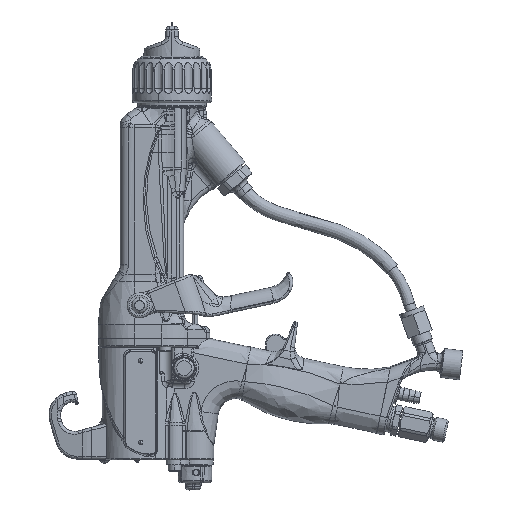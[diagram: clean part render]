
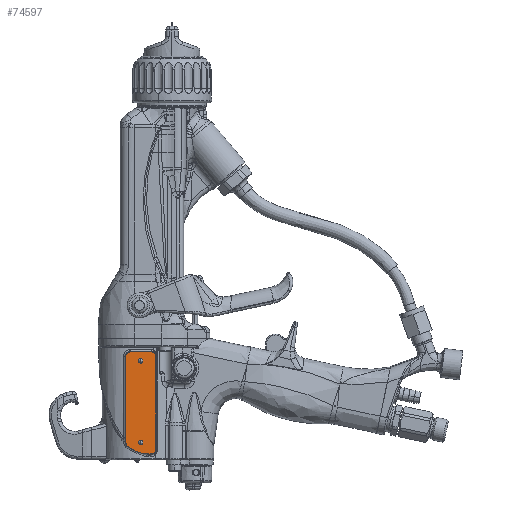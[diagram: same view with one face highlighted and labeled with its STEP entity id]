
A CAD part, left-side view. The second image highlights one B-rep face of the part: STEP entity #74597.
In plain terms, the highlighted planar face has unit normal (-1, -0.001, 0).
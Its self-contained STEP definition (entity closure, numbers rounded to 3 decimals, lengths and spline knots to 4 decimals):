
#66476=CARTESIAN_POINT('',(-0.7552,0.4544,-6.265));
#66477=DIRECTION('',(-1.,-0.001,0.));
#66478=DIRECTION('',(0.001,-1.,0.));
#66479=AXIS2_PLACEMENT_3D('',#66476,#66477,#66478);
#66481=DIRECTION('',(0.,0.,1.));
#66482=VECTOR('',#66481,2.062);
#66483=CARTESIAN_POINT('',(-0.7552,0.356,-8.327));
#66484=LINE('',#66483,#66482);
#66485=CARTESIAN_POINT('',(-0.7552,0.4544,-8.327));
#66486=DIRECTION('',(-1.,-0.001,0.));
#66487=DIRECTION('',(0.,0.,-1.));
#66488=AXIS2_PLACEMENT_3D('',#66485,#66486,#66487);
#66490=DIRECTION('',(0.001,-1.,0.));
#66491=VECTOR('',#66490,0.087);
#66492=CARTESIAN_POINT('',(-0.7553,0.5414,
-8.4255));
#66493=LINE('',#66492,#66491);
#66494=CARTESIAN_POINT('',(-0.7553,0.5414,-7.787));
#66495=DIRECTION('',(-1.,-0.001,0.));
#66496=DIRECTION('',(-0.001,0.713,-0.701));
#66497=AXIS2_PLACEMENT_3D('',#66494,#66495,#66496);
#66499=CARTESIAN_POINT('',(-0.7556,0.9194,
-8.1585));
#66500=DIRECTION('',(-1.,-0.001,0.));
#66501=DIRECTION('',(-0.001,1.,0.));
#66502=AXIS2_PLACEMENT_3D('',#66499,#66500,#66501);
#66504=DIRECTION('',(0.,0.,-1.));
#66505=VECTOR('',#66504,1.8935);
#66506=CARTESIAN_POINT('',(-0.7557,1.0279,-6.265));
#66507=LINE('',#66506,#66505);
#66508=CARTESIAN_POINT('',(-0.7556,0.9294,-6.265));
#66509=DIRECTION('',(-1.,-0.001,0.));
#66510=DIRECTION('',(0.,0.,1.));
#66511=AXIS2_PLACEMENT_3D('',#66508,#66509,#66510);
#66513=DIRECTION('',(-0.001,1.,0.));
#66514=VECTOR('',#66513,0.475);
#66515=CARTESIAN_POINT('',(-0.7552,0.4544,
-6.1665));
#66516=LINE('',#66515,#66514);
#71076=CARTESIAN_POINT('',(-0.7552,0.356,-6.265));
#71077=CARTESIAN_POINT('',(-0.7552,0.4544,
-6.1665));
#71078=VERTEX_POINT('',#71076);
#71079=VERTEX_POINT('',#71077);
#71080=CARTESIAN_POINT('',(-0.7556,0.9294,
-6.1665));
#71081=VERTEX_POINT('',#71080);
#71082=CARTESIAN_POINT('',(-0.7557,1.0279,-6.265));
#71083=VERTEX_POINT('',#71082);
#71084=CARTESIAN_POINT('',(-0.7557,1.0279,
-8.1585));
#71085=VERTEX_POINT('',#71084);
#71086=CARTESIAN_POINT('',(-0.7556,0.9968,
-8.2345));
#71087=VERTEX_POINT('',#71086);
#71088=CARTESIAN_POINT('',(-0.7553,0.5414,
-8.4255));
#71089=VERTEX_POINT('',#71088);
#71090=CARTESIAN_POINT('',(-0.7552,0.4544,
-8.4255));
#71091=VERTEX_POINT('',#71090);
#71092=CARTESIAN_POINT('',(-0.7552,0.356,-8.327));
#71093=VERTEX_POINT('',#71092);
#74572=CARTESIAN_POINT('',(-0.755,0.1294,-5.595));
#74573=DIRECTION('',(1.,0.001,0.));
#74574=DIRECTION('',(0.,0.,-1.));
#74575=AXIS2_PLACEMENT_3D('',#74572,#74573,#74574);
#74576=PLANE('',#74575);
#74578=ORIENTED_EDGE('',*,*,#74577,.F.);
#74580=ORIENTED_EDGE('',*,*,#74579,.F.);
#74582=ORIENTED_EDGE('',*,*,#74581,.F.);
#74584=ORIENTED_EDGE('',*,*,#74583,.F.);
#74586=ORIENTED_EDGE('',*,*,#74585,.F.);
#74588=ORIENTED_EDGE('',*,*,#74587,.F.);
#74590=ORIENTED_EDGE('',*,*,#74589,.F.);
#74592=ORIENTED_EDGE('',*,*,#74591,.F.);
#74594=ORIENTED_EDGE('',*,*,#74593,.F.);
#74595=EDGE_LOOP('',(#74578,#74580,#74582,#74584,#74586,#74588,#74590,#74592,
#74594));
#74596=FACE_OUTER_BOUND('',#74595,.F.);
#74597=ADVANCED_FACE('',(#74596),#74576,.F.);
#66480=CIRCLE('',#66479,0.0985);
#66489=CIRCLE('',#66488,0.0985);
#66498=CIRCLE('',#66497,0.6385);
#66503=CIRCLE('',#66502,0.1085);
#66512=CIRCLE('',#66511,0.0985);
#74577=EDGE_CURVE('',#71078,#71079,#66480,.T.);
#74579=EDGE_CURVE('',#71093,#71078,#66484,.T.);
#74581=EDGE_CURVE('',#71091,#71093,#66489,.T.);
#74583=EDGE_CURVE('',#71089,#71091,#66493,.T.);
#74585=EDGE_CURVE('',#71087,#71089,#66498,.T.);
#74587=EDGE_CURVE('',#71085,#71087,#66503,.T.);
#74589=EDGE_CURVE('',#71083,#71085,#66507,.T.);
#74591=EDGE_CURVE('',#71081,#71083,#66512,.T.);
#74593=EDGE_CURVE('',#71079,#71081,#66516,.T.);
